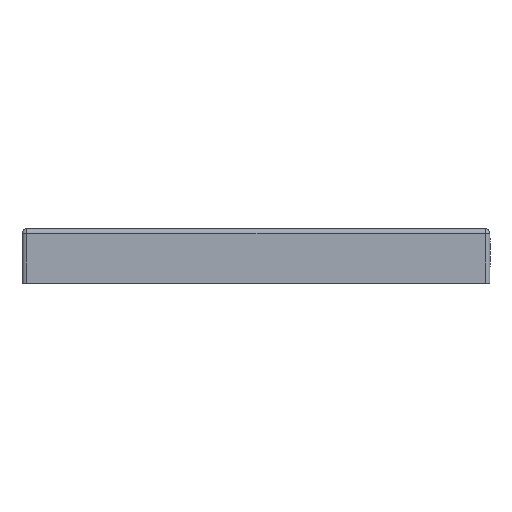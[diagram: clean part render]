
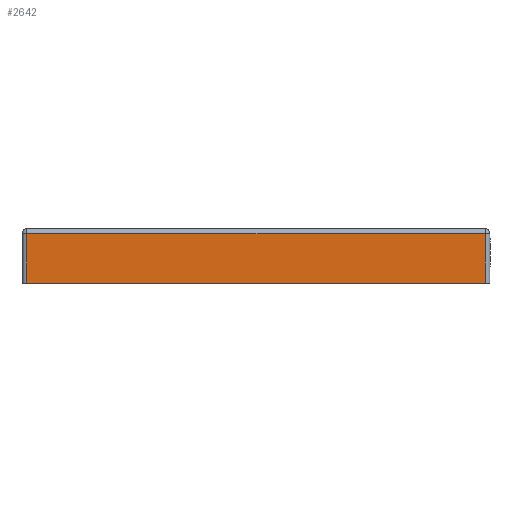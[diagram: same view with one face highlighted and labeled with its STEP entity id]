
A CAD part, front view. The second image highlights one B-rep face of the part: STEP entity #2642.
In plain terms, the highlighted planar face has unit normal (0, -1, -0.018).
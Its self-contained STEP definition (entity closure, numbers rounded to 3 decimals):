
#2642=ADVANCED_FACE('',(#5355),#4185,.F.);
#4185=PLANE('',#34009);
#5355=FACE_OUTER_BOUND('',#6965,.T.);
#6965=EDGE_LOOP('',(#12009,#12010,#12011,#12012,#12013,#12014));
#12009=ORIENTED_EDGE('',*,*,#23788,.T.);
#12010=ORIENTED_EDGE('',*,*,#23698,.T.);
#12011=ORIENTED_EDGE('',*,*,#23789,.T.);
#12012=ORIENTED_EDGE('',*,*,#23790,.T.);
#12013=ORIENTED_EDGE('',*,*,#23791,.T.);
#12014=ORIENTED_EDGE('',*,*,#23792,.T.);
#19907=VERTEX_POINT('',#48009);
#19970=VERTEX_POINT('',#48251);
#20016=VERTEX_POINT('',#48424);
#20017=VERTEX_POINT('',#48426);
#20018=VERTEX_POINT('',#48428);
#20019=VERTEX_POINT('',#48430);
#23698=EDGE_CURVE('',#19970,#19907,#28069,.T.);
#23788=EDGE_CURVE('',#20016,#19970,#28150,.T.);
#23789=EDGE_CURVE('',#19907,#20017,#28151,.T.);
#23790=EDGE_CURVE('',#20017,#20018,#28152,.T.);
#23791=EDGE_CURVE('',#20018,#20019,#28153,.T.);
#23792=EDGE_CURVE('',#20019,#20016,#28154,.T.);
#28069=LINE('',#48250,#31262);
#28150=LINE('',#48423,#31343);
#28151=LINE('',#48425,#31344);
#28152=LINE('',#48427,#31345);
#28153=LINE('',#48429,#31346);
#28154=LINE('',#48431,#31347);
#31262=VECTOR('',#38530,1.);
#31343=VECTOR('',#38703,1.);
#31344=VECTOR('',#38704,1.);
#31345=VECTOR('',#38705,1.);
#31346=VECTOR('',#38706,1.);
#31347=VECTOR('',#38707,1.);
#34009=AXIS2_PLACEMENT_3D('',#48432,#38708,#38709);
#38530=DIRECTION('',(0.,-0.017,1.));
#38703=DIRECTION('',(1.,0.,0.));
#38704=DIRECTION('',(-1.,0.,0.));
#38705=DIRECTION('',(0.,0.017,-1.));
#38706=DIRECTION('',(1.,0.,0.));
#38707=DIRECTION('',(1.,0.,0.));
#38708=DIRECTION('',(0.,1.,0.017));
#38709=DIRECTION('',(0.,-0.017,1.));
#48009=CARTESIAN_POINT('',(12.492,25.707,0.));
#48250=CARTESIAN_POINT('',(12.492,25.842,-7.737));
#48251=CARTESIAN_POINT('',(12.492,25.977,-15.474));
#48423=CARTESIAN_POINT('',(-1.258,25.977,-15.474));
#48424=CARTESIAN_POINT('',(-37.008,25.977,-15.474));
#48425=CARTESIAN_POINT('',(-1.258,25.707,0.));
#48426=CARTESIAN_POINT('',(-130.508,25.707,0.));
#48427=CARTESIAN_POINT('',(-130.508,25.842,-7.737));
#48428=CARTESIAN_POINT('',(-130.508,25.977,-15.474));
#48429=CARTESIAN_POINT('',(-92.008,25.977,-15.474));
#48430=CARTESIAN_POINT('',(-81.008,25.977,-15.474));
#48431=CARTESIAN_POINT('',(-48.008,25.977,-15.474));
#48432=CARTESIAN_POINT('',(13.992,25.706,0.029));
